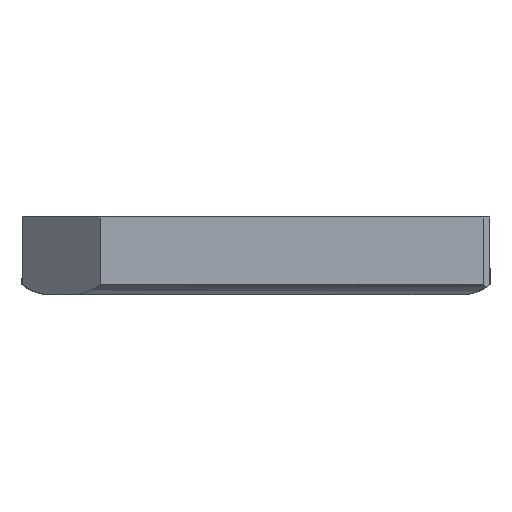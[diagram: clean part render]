
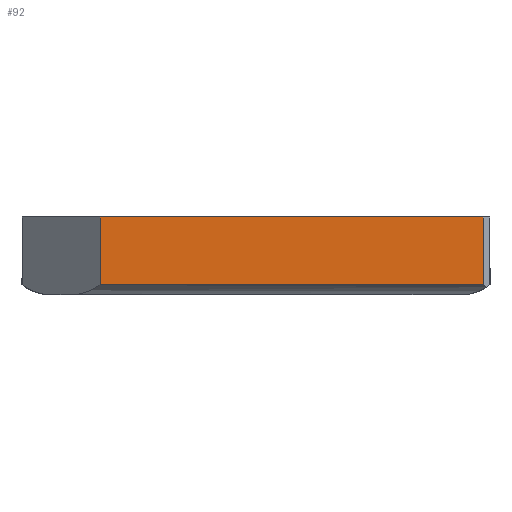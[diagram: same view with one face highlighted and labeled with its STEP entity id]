
A CAD part, left-side view. The second image highlights one B-rep face of the part: STEP entity #92.
In plain terms, the highlighted planar face has unit normal (-1, 0, 0).
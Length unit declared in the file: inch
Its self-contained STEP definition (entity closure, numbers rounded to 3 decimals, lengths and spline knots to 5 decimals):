
#15 = PLANE ( 'NONE',  #758 ) ;
#39 = ORIENTED_EDGE ( 'NONE', *, *, #1378, .T. ) ;
#92 = ADVANCED_FACE ( 'NONE', ( #1416 ), #15, .F. ) ;
#110 = CARTESIAN_POINT ( 'NONE',  ( 0., -0.118, 0.118 ) ) ;
#163 = VECTOR ( 'NONE', #1321, 39.37008 ) ;
#168 = VERTEX_POINT ( 'NONE', #436 ) ;
#285 = LINE ( 'NONE', #367, #1110 ) ;
#304 = LINE ( 'NONE', #1081, #163 ) ;
#361 = ORIENTED_EDGE ( 'NONE', *, *, #697, .F. ) ;
#367 = CARTESIAN_POINT ( 'NONE',  ( 0., -0.698, 0.118 ) ) ;
#383 = ORIENTED_EDGE ( 'NONE', *, *, #1415, .T. ) ;
#436 = CARTESIAN_POINT ( 'NONE',  ( 0., -0.118, 0.01515 ) ) ;
#544 = DIRECTION ( 'NONE',  ( 0., 1., 0. ) ) ;
#579 = VECTOR ( 'NONE', #770, 39.37008 ) ;
#650 = CARTESIAN_POINT ( 'NONE',  ( 0., -0.698, 0.118 ) ) ;
#697 = EDGE_CURVE ( 'NONE', #1136, #914, #860, .T. ) ;
#758 = AXIS2_PLACEMENT_3D ( 'NONE', #910, #1317, #544 ) ;
#770 = DIRECTION ( 'NONE',  ( 0., -1., 0. ) ) ;
#775 = CARTESIAN_POINT ( 'NONE',  ( 0., 0., 0.118 ) ) ;
#786 = DIRECTION ( 'NONE',  ( 0., -1., 0. ) ) ;
#789 = EDGE_CURVE ( 'NONE', #1136, #168, #304, .T. ) ;
#809 = CARTESIAN_POINT ( 'NONE',  ( 0., -0.698, 0.01515 ) ) ;
#816 = CARTESIAN_POINT ( 'NONE',  ( 0., 0., 0.01515 ) ) ;
#847 = EDGE_LOOP ( 'NONE', ( #39, #383, #361, #940 ) ) ;
#860 = LINE ( 'NONE', #775, #1274 ) ;
#910 = CARTESIAN_POINT ( 'NONE',  ( 0., 0., 0.118 ) ) ;
#914 = VERTEX_POINT ( 'NONE', #650 ) ;
#940 = ORIENTED_EDGE ( 'NONE', *, *, #789, .T. ) ;
#1081 = CARTESIAN_POINT ( 'NONE',  ( 0., -0.118, 0.118 ) ) ;
#1110 = VECTOR ( 'NONE', #1124, 39.37008 ) ;
#1124 = DIRECTION ( 'NONE',  ( 0., 0., 1. ) ) ;
#1136 = VERTEX_POINT ( 'NONE', #110 ) ;
#1212 = LINE ( 'NONE', #816, #579 ) ;
#1274 = VECTOR ( 'NONE', #786, 39.37008 ) ;
#1317 = DIRECTION ( 'NONE',  ( 1., 0., 0. ) ) ;
#1321 = DIRECTION ( 'NONE',  ( 0., 0., -1. ) ) ;
#1345 = VERTEX_POINT ( 'NONE', #809 ) ;
#1378 = EDGE_CURVE ( 'NONE', #168, #1345, #1212, .T. ) ;
#1415 = EDGE_CURVE ( 'NONE', #1345, #914, #285, .T. ) ;
#1416 = FACE_OUTER_BOUND ( 'NONE', #847, .T. ) ;
